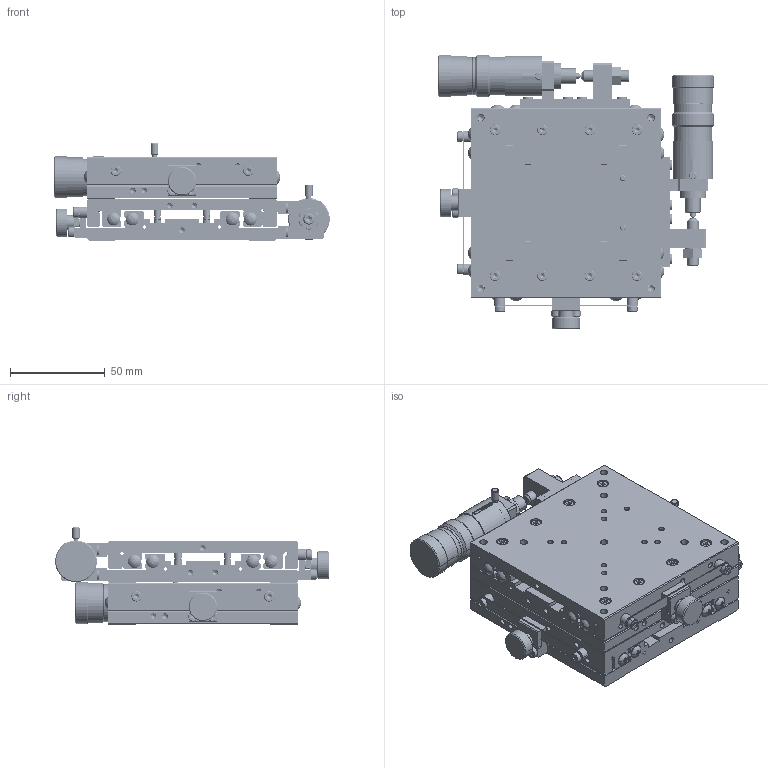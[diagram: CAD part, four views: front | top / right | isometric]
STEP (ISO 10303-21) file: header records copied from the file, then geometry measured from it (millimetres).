
FILE_DESCRIPTION (( 'STEP AP214' ), '1' );
FILE_NAME ('YM10F-S3-CL.STEP', '2009-05-11T08:17:12', ( ' ' ), ( ' ' ), 'SwSTEP 2.0', 'SolidWorks 2008', '' );
FILE_SCHEMA (( 'AUTOMOTIVE_DESIGN' ));
Length unit declared in the file: millimetre
Products named in the file (6): YM10F-S3-CL; XM10F-S3-CL(PL); 001190-1011(3D); XM10F-S3-CL(PL)-1; 001190-1023(3D); 001190-1011(3D)-1
Assembly tree (5 placements, depth 3):
  YM10F-S3-CL
    XM10F-S3-CL(PL)-1
      001190-1023(3D)
      001190-1011(3D)-1
    XM10F-S3-CL(PL)
      001190-1011(3D)
Bounding box: 145.5 x 144.5 x 51.5 mm (x, y, z)
Volume: 423476.5 mm3; surface area: 160820.1 mm2
Topology: 3 solids, 111 shells, 3902 faces, 9250 edges, 5544 vertices
Faces by surface type: plane 1818, cylinder 1168, cone 850, sphere 34, torus 32
Entity records: 111425 total; most frequent: DIRECTION 20272, CARTESIAN_POINT 20236, ORIENTED_EDGE 18012, EDGE_CURVE 9006, AXIS2_PLACEMENT_3D 7730, VERTEX_POINT 5542, VECTOR 4812, LINE 4812
